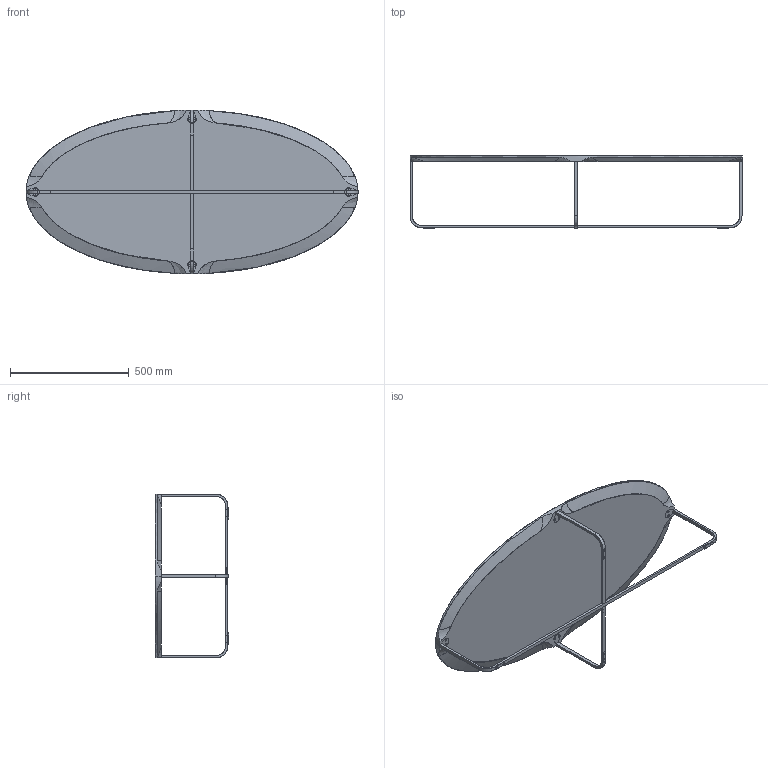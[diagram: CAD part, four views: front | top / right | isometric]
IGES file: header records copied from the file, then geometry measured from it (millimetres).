
Start section: SolidWorks IGES file using analytic representation for surfaces
Global section: file name: G:\Product Info\Flint\3D\IGS\Flint tafel 1400x0690-300.IGS; native system: SolidWorks 2008; preprocessor: SolidWorks 2008; author: remko; date: 090119.181124; units: millimetre
Bounding box: 1400 x 308 x 690 mm (x, y, z)
Surface area: 1735368.3 mm2 (no closed solid volume)
Topology: 0 solids, 0 shells, 306 faces, 5194 edges, 5891 vertices
Faces by surface type: revolution 166, bspline 140
